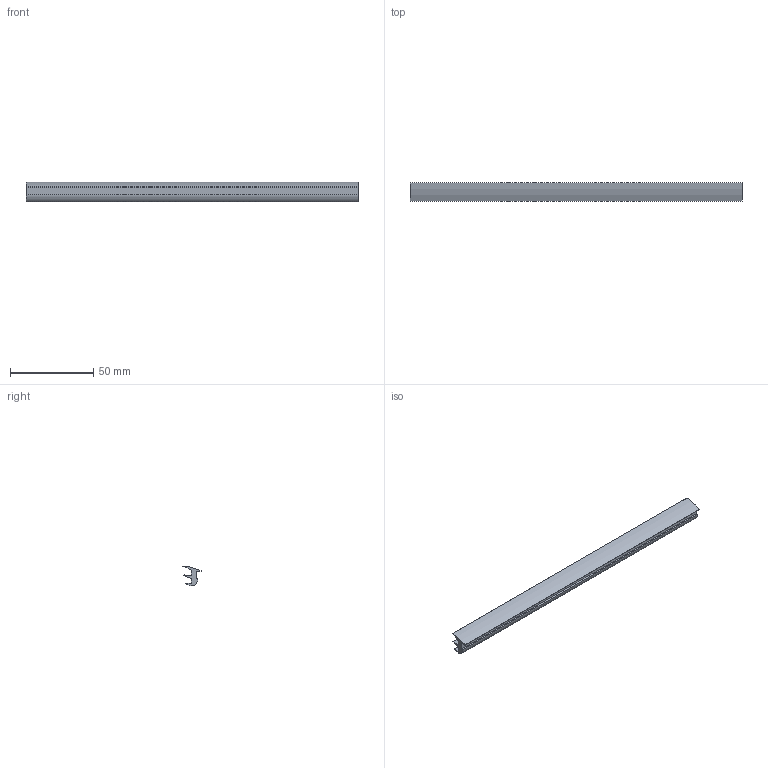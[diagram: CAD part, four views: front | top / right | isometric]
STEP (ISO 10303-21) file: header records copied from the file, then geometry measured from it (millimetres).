
FILE_DESCRIPTION (( 'STEP AP203' ), '1' );
FILE_NAME ('1.30.11.0001-guarnizione-grigia-pannelli-sp2mm-milper.STEP', '2020-11-20T07:41:27', ( '' ), ( '' ), 'SwSTEP 2.0', 'SolidWorks 2020', '' );
FILE_SCHEMA (( 'CONFIG_CONTROL_DESIGN' ));
Length unit declared in the file: millimetre
Products named in the file (1): 1.30.11.0001-guarnizione-grigia-pannelli-sp2mm-milper
Bounding box: 200 x 11.05 x 11.78 mm (x, y, z)
Volume: 9475.4 mm3; surface area: 11095.8 mm2
Topology: 1 solids, 1 shells, 27 faces, 75 edges, 50 vertices
Faces by surface type: cylinder 19, plane 8
Entity records: 964 total; most frequent: DIRECTION 169, CARTESIAN_POINT 153, ORIENTED_EDGE 150, EDGE_CURVE 75, AXIS2_PLACEMENT_3D 66, VERTEX_POINT 50, CIRCLE 38, VECTOR 37
